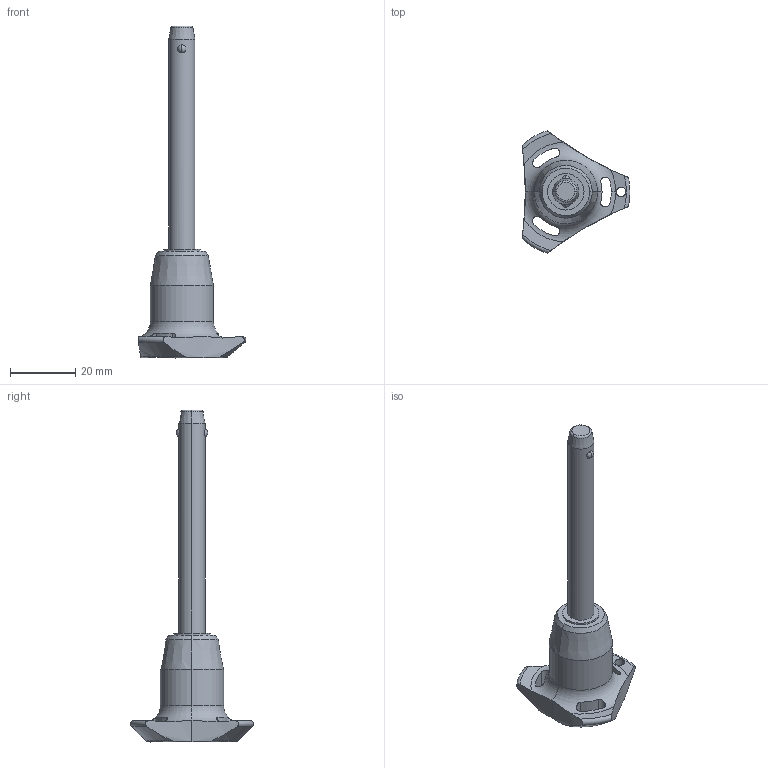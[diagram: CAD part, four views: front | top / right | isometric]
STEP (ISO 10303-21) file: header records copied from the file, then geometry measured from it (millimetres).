
FILE_DESCRIPTION (( 'STEP AP203' ), '1' );
FILE_NAME ('QR1704.M08-060-S.step', '2025-11-12T09:16:22', ( '' ), ( '' ), 'SwSTEP 2.0', 'SolidWorks 2019', '' );
FILE_SCHEMA (( 'CONFIG_CONTROL_DESIGN' ));
Length unit declared in the file: millimetre
Products named in the file (1): QR1704.M08-060-S
Bounding box: 33 x 37.51 x 101.5 mm (x, y, z)
Volume: 13666.1 mm3; surface area: 5562.5 mm2
Topology: 1 solids, 1 shells, 65 faces, 174 edges, 109 vertices
Faces by surface type: cylinder 30, cone 14, torus 11, sphere 6, plane 4
Entity records: 2746 total; most frequent: CARTESIAN_POINT 1073, ORIENTED_EDGE 348, DIRECTION 331, EDGE_CURVE 174, AXIS2_PLACEMENT_3D 147, VERTEX_POINT 109, CIRCLE 81, EDGE_LOOP 71
